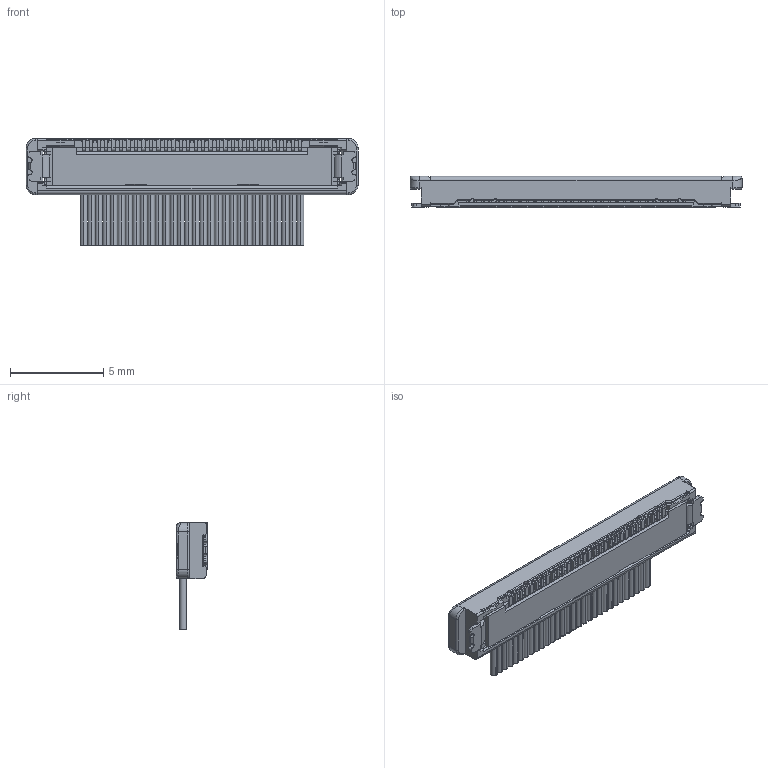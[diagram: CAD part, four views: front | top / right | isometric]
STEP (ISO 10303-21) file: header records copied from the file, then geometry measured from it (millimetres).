
FILE_DESCRIPTION (( 'STEP AP203' ), '1' );
FILE_NAME ('20374-030E-xxC+20380-030T-03C MATING STEP R1R7R2 ALL.STEP', '2012-03-16T11:31:47', ( ' ' ), ( ' ' ), 'SwSTEP 2.0', 'SolidWorks 2011', '' );
FILE_SCHEMA (( 'CONFIG_CONTROL_DESIGN' ));
Length unit declared in the file: millimetre
Products named in the file (3): 20380-030T-03C STEP R7R2 ALL; 20374-030E-xxC STEP R1 ALL; 20374-030E-xxC+20380-030T-03C MATING STEP R1R7R2 ALL
Assembly tree (2 placements, depth 2):
  20374-030E-xxC+20380-030T-03C MATING STEP R1R7R2 ALL
    20374-030E-xxC STEP R1 ALL
    20380-030T-03C STEP R7R2 ALL
Bounding box: 17.8 x 1.68 x 5.72 mm (x, y, z)
Volume: 86.2 mm3; surface area: 714.3 mm2
Topology: 32 solids, 32 shells, 2382 faces, 6602 edges, 4246 vertices
Faces by surface type: plane 1397, cylinder 707, torus 138, cone 94, sphere 38, bspline 8
Entity records: 76595 total; most frequent: CARTESIAN_POINT 14531, DIRECTION 13099, ORIENTED_EDGE 13024, EDGE_CURVE 6512, AXIS2_PLACEMENT_3D 4445, LINE 4209, VECTOR 4209, VERTEX_POINT 4186
